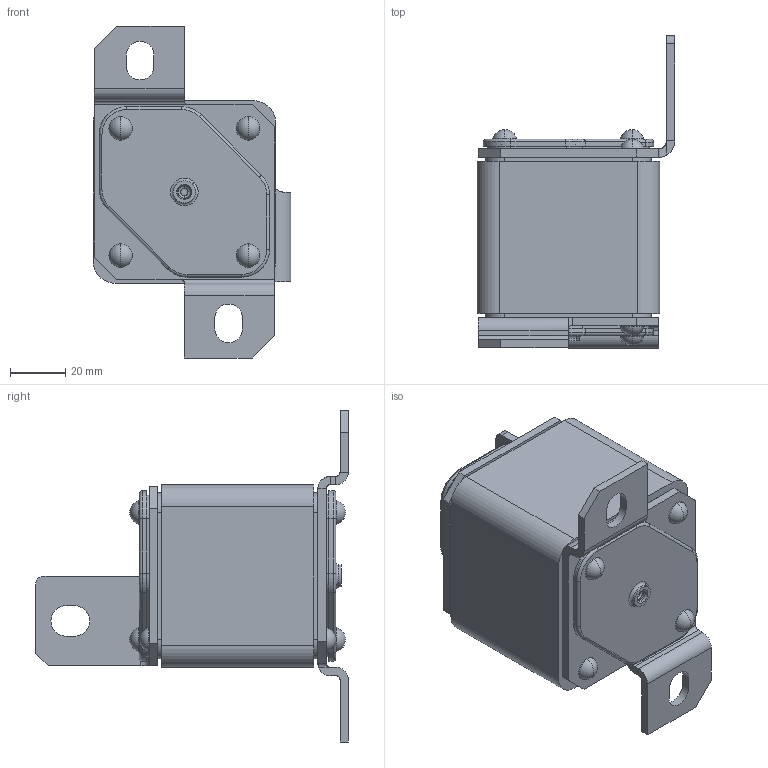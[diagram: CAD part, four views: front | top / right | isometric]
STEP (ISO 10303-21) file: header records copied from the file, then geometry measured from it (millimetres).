
FILE_DESCRIPTION (( 'STEP AP214' ), '1' );
FILE_NAME ('砎槼隰譇膻蠈錪 珫57-37380-迕-XXXA-XXXX-忡曖.STEP', '2023-05-11T11:55:47', ( '' ), ( '' ), 'SwSTEP 2.0', 'SolidWorks 2018', '' );
FILE_SCHEMA (( 'AUTOMOTIVE_DESIGN' ));
Length unit declared in the file: millimetre
Products named in the file (1): 砎槼隰譇膻蠈錪 珫57-37380-迕-XXXA-XXXX-忡曖
Bounding box: 71.5 x 113 x 120 mm (x, y, z)
Volume: 292696.3 mm3; surface area: 45800.9 mm2
Topology: 1 solids, 15 shells, 401 faces, 937 edges, 587 vertices
Faces by surface type: plane 160, cylinder 153, torus 40, cone 32, sphere 16
Entity records: 16073 total; most frequent: DIRECTION 2202, CARTESIAN_POINT 2028, ORIENTED_EDGE 1874, EDGE_CURVE 937, AXIS2_PLACEMENT_3D 869, VERTEX_POINT 587, CIRCLE 467, VECTOR 464
